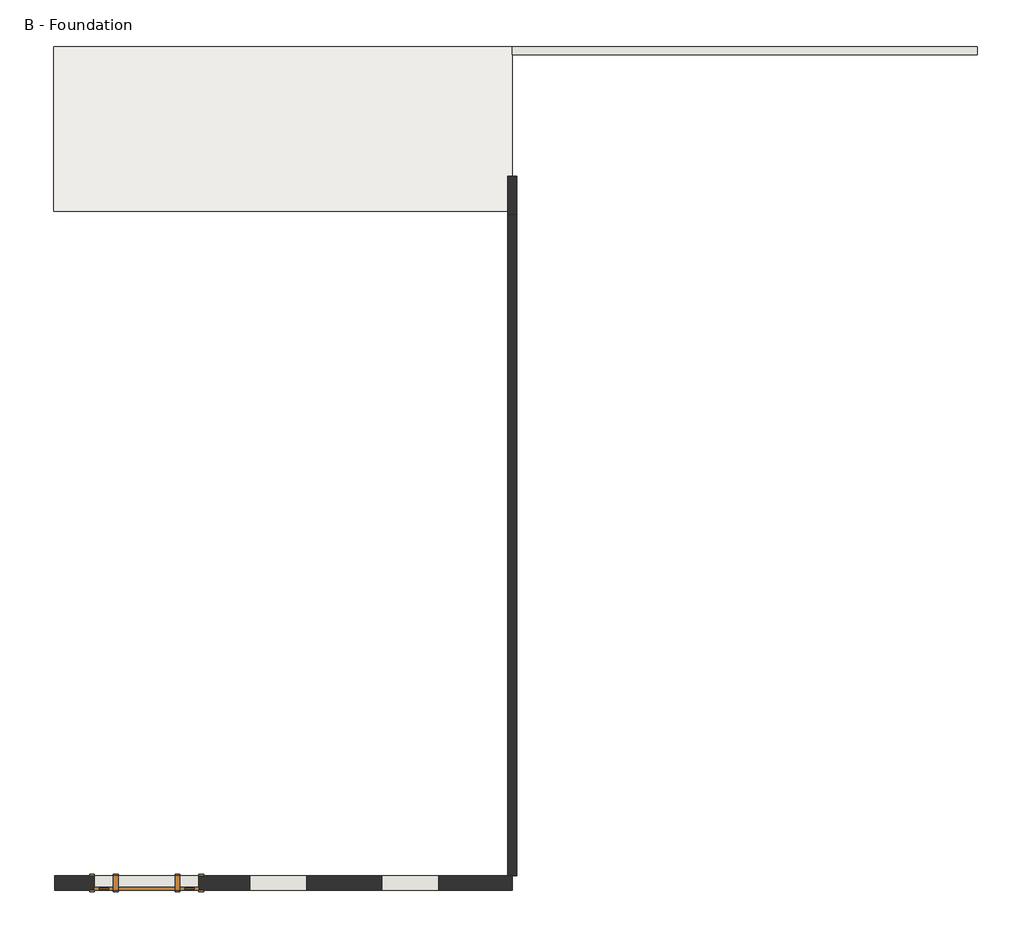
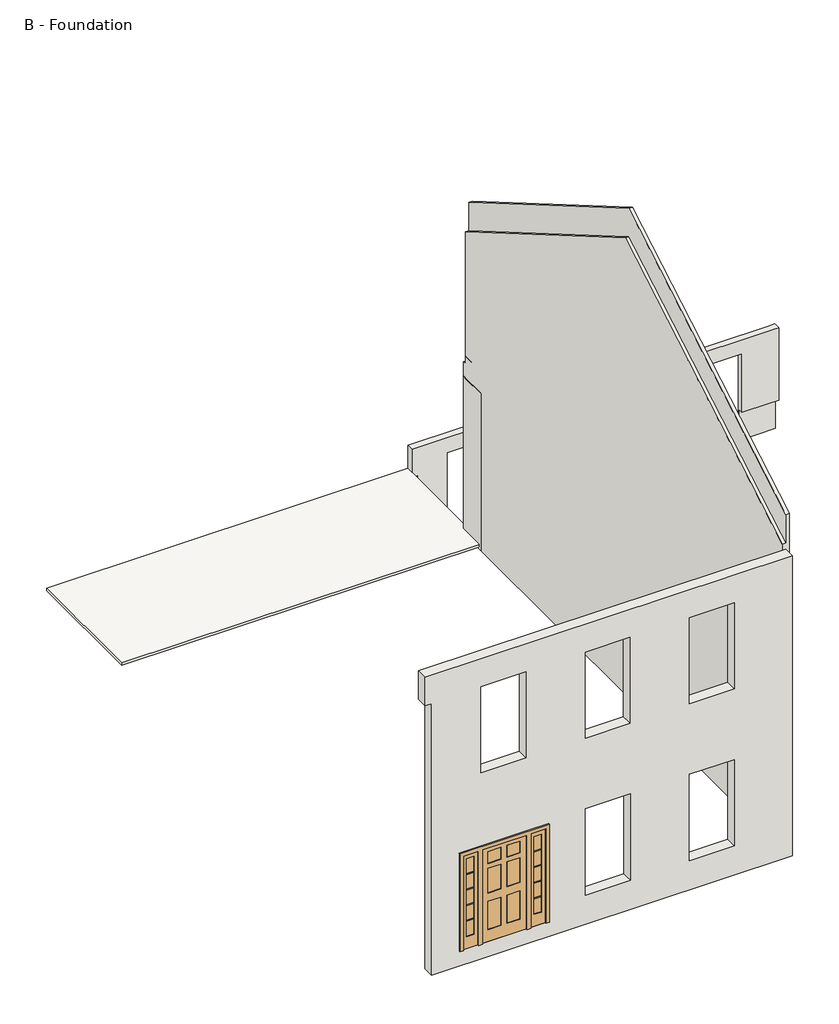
# One storey: 5 walls, 1 door, 1 slab.
"""IFC4 building model written with IfcOpenShell, lengths in millimetres."""

from ifc_helpers import new_model, si_unit, frame, origin, place, context, project, spatial, polyline, outline, extrude, faceted_brep, transform, mapped, element, save
from components import door_09daaf69

model = new_model("IFC4")

# Units and contexts
model_context = context("Model", 3, world=origin())
ifc_project = project(units=[si_unit("LENGTHUNIT", "METRE", prefix="MILLI")], contexts=[model_context])

# Site, building, storey
site = spatial("IfcSite", under=ifc_project)
building = spatial("IfcBuilding", under=site)
storey = spatial("IfcBuildingStorey", under=building, Name="B - Foundation", Elevation=285.75)

# Door
placement = place(None, origin())
door_shape = door_09daaf69(model_context)
element("IfcDoor", 1, ObjectType="Single-Raised Panel with Sidelights : 36\" x 80\"", at=placement, inside=storey, context=model_context, shape_type="MappedRepresentation", body=[
    mapped(door_shape, transform((-2610.9629486, -7238.6414462, 609.6), x_axis=(-1.0, 0.0, 0.0), y_axis=(0.0, -1.0, 0.0), z_axis=(0.0, 0.0, 1.0))),
])

# Slab
element("IfcSlab", 2, ObjectType="Deck", at=placement, inside=storey, context=model_context, shape_type="SweptSolid", body=[
    extrude(outline(polyline([(3256.4370514, 6190.0210538), (3256.4370514, 3545.2460538), (-4100.0379486, 3545.2460538), (-4100.0379486, 6190.0210538), (3256.4370514, 6190.0210538)])), frame((0.0, 0.0, 342.9), z_axis=(0.0, 0.0, 1.0), x_axis=(1.0, 0.0, 0.0)), (0.0, 0.0, 1.0), 57.15),
])

# Walls
element("IfcWall", 3, ObjectType="Exterior - Brick on Wood Stud", at=placement, inside=storey, context=model_context, shape_type="Brep", body=[
    faceted_brep([(3256.4370514, -7122.7539462, 285.75), (3183.4120514, -7122.7539462, 285.75), (-3950.8129486, -7122.7539462, 285.75), (-4084.1629486, -7122.7539462, 285.75), (-4084.1629486, -7122.7539462, 6127.75), (-4217.5129486, -7122.7539462, 6127.75), (-4217.5129486, -7122.7539462, 6262.9520833), (-4217.5129486, -7122.7539462, 6737.35), (3256.4370514, -7122.7539462, 6737.35), (3256.4370514, -7122.7539462, 895.35), (-958.5972335, -7122.7539462, 6140.45), (-958.5972335, -7122.7539462, 4286.25), (-44.1972335, -7122.7539462, 4286.25), (-44.1972335, -7122.7539462, 6140.45), (-3077.226876, -7122.7539462, 6140.45), (-3077.226876, -7122.7539462, 4286.25), (-2162.826876, -7122.7539462, 4286.25), (-2162.826876, -7122.7539462, 6140.45), (1160.032409, -7122.7539462, 6140.45), (1160.032409, -7122.7539462, 4286.25), (2074.432409, -7122.7539462, 4286.25), (2074.432409, -7122.7539462, 6140.45), (-3449.1629486, -7122.7539462, 609.6), (-1772.7629486, -7122.7539462, 609.6), (-1772.7629486, -7122.7539462, 2641.6), (-3449.1629486, -7122.7539462, 2641.6), (-954.0652698, -7122.7539462, 2768.6), (-954.0652698, -7122.7539462, 914.4), (-39.6652698, -7122.7539462, 914.4), (-39.6652698, -7122.7539462, 2768.6), (1160.032409, -7122.7539462, 2768.6), (1160.032409, -7122.7539462, 914.4), (2074.432409, -7122.7539462, 914.4), (2074.432409, -7122.7539462, 2768.6), (-4055.5879486, -7122.7539462, 3660.775), (-3950.8129486, -7122.7539462, 3660.775), (3205.6370514, -7122.7539462, 3660.775), (3205.6370514, -7122.7539462, 3981.45), (-1423.5129486, -7122.7539462, 3981.45), (-1537.8129486, -7122.7539462, 3981.45), (-3950.8129486, -7122.7539462, 3981.45), (-4055.5879486, -7122.7539462, 3981.45), (-4084.1629486, -7354.5289462, 285.75), (3256.4370514, -7354.5289462, 285.75), (3256.4370514, -7354.5289462, 895.35), (3256.4370514, -7354.5289462, 6737.35), (-4217.5129486, -7354.5289462, 6737.35), (-4217.5129486, -7354.5289462, 6127.75), (-4084.1629486, -7354.5289462, 6127.75), (-958.5972335, -7354.5289462, 4286.25), (-958.5972335, -7354.5289462, 6140.45), (-44.1972335, -7354.5289462, 6140.45), (-44.1972335, -7354.5289462, 4286.25), (-3077.226876, -7354.5289462, 4286.25), (-3077.226876, -7354.5289462, 6140.45), (-2162.826876, -7354.5289462, 6140.45), (-2162.826876, -7354.5289462, 4286.25), (1160.032409, -7354.5289462, 4286.25), (1160.032409, -7354.5289462, 6140.45), (2074.432409, -7354.5289462, 6140.45), (2074.432409, -7354.5289462, 4286.25), (-1772.7629486, -7354.5289462, 609.6), (-3449.1629486, -7354.5289462, 609.6), (-3449.1629486, -7354.5289462, 2641.6), (-1772.7629486, -7354.5289462, 2641.6), (-954.0652698, -7354.5289462, 914.4), (-954.0652698, -7354.5289462, 2768.6), (-39.6652698, -7354.5289462, 2768.6), (-39.6652698, -7354.5289462, 914.4), (1160.032409, -7354.5289462, 914.4), (1160.032409, -7354.5289462, 2768.6), (2074.432409, -7354.5289462, 2768.6), (2074.432409, -7354.5289462, 914.4), (-4055.5879486, -7135.4539462, 3660.775), (3205.6370514, -7135.4539462, 3660.775), (3205.6370514, -7135.4539462, 3981.45), (-4055.5879486, -7135.4539462, 3981.45)], [[[0, 1, 2, 3, 4, 5, 6, 7, 8, 9], [10, 11, 12, 13], [14, 15, 16, 17], [18, 19, 20, 21], [22, 23, 24, 25], [26, 27, 28, 29], [30, 31, 32, 33], [34, 35, 36, 37, 38, 39, 40, 41]], [[42, 43, 44, 45, 46, 47, 48], [49, 50, 51, 52], [53, 54, 55, 56], [57, 58, 59, 60], [61, 62, 63, 64], [65, 66, 67, 68], [69, 70, 71, 72]], [[3, 2, 1, 0, 43, 42]], [[8, 7, 46, 45]], [[8, 45, 44, 43, 0, 9]], [[3, 42, 48, 4]], [[7, 6, 5, 47, 46]], [[11, 10, 50, 49]], [[12, 11, 49, 52]], [[13, 12, 52, 51]], [[10, 13, 51, 50]], [[15, 14, 54, 53]], [[16, 15, 53, 56]], [[17, 16, 56, 55]], [[14, 17, 55, 54]], [[19, 18, 58, 57]], [[20, 19, 57, 60]], [[21, 20, 60, 59]], [[18, 21, 59, 58]], [[62, 61, 23, 22]], [[63, 62, 22, 25]], [[64, 63, 25, 24]], [[61, 64, 24, 23]], [[27, 26, 66, 65]], [[28, 27, 65, 68]], [[29, 28, 68, 67]], [[26, 29, 67, 66]], [[31, 30, 70, 69]], [[32, 31, 69, 72]], [[33, 32, 72, 71]], [[30, 33, 71, 70]], [[73, 74, 36, 35, 34]], [[75, 76, 41, 40, 39, 38, 37]], [[74, 75, 37, 36]], [[74, 73, 76, 75]], [[76, 73, 34, 41]], [[5, 4, 48, 47]]]),
])
element("IfcWall", 4, ObjectType="Exterior - Wood Siding on Wood Stud", at=placement, inside=storey, context=model_context, shape_type="Brep", body=[
    faceted_brep([(3256.4370514, 6190.0210538, 895.35), (10590.6870514, 6190.0210538, 895.35), (10724.0370514, 6190.0210538, 895.35), (10724.0370514, 6190.0210538, -730.25), (10724.0370514, 6190.0210538, -1339.85), (9974.7370514, 6190.0210538, -1339.85), (9974.7370514, 6190.0210538, 590.55), (7485.5370514, 6190.0210538, 590.55), (7485.5370514, 6190.0210538, -1339.85), (6456.8370514, 6190.0210538, -1339.85), (6456.8370514, 6190.0210538, 565.15), (3967.6370514, 6190.0210538, 565.15), (3967.6370514, 6190.0210538, -1339.85), (3383.4370514, 6190.0210538, -1339.85), (3383.4370514, 6190.0210538, 285.75), (3256.4370514, 6190.0210538, 285.75), (10724.0370514, 6056.6710538, 895.35), (10590.6870514, 6056.6710538, 895.35), (10470.0370514, 6056.6710538, 895.35), (3256.4370514, 6056.6710538, 895.35), (3256.4370514, 6056.6710538, 285.75), (3383.4370514, 6056.6710538, 285.75), (3383.4370514, 6056.6710538, -666.75), (3967.6370514, 6056.6710538, -666.75), (3967.6370514, 6056.6710538, 565.15), (6456.8370514, 6056.6710538, 565.15), (6456.8370514, 6056.6710538, -666.75), (7485.5370514, 6056.6710538, -666.75), (7485.5370514, 6056.6710538, 590.55), (9974.7370514, 6056.6710538, 590.55), (9974.7370514, 6056.6710538, -666.75), (10470.0370514, 6056.6710538, -666.75), (10724.0370514, 6056.6710538, -666.75), (10724.0370514, 6056.6710538, -336.55), (7485.5370514, 6170.9710538, -666.75), (6456.8370514, 6170.9710538, -666.75), (3383.4370514, 6170.9710538, -666.75), (3967.6370514, 6170.9710538, -666.75), (9974.7370514, 6170.9710538, -666.75), (10724.0370514, 6170.9710538, -666.75), (9974.7370514, 6170.9710538, -1339.85), (10724.0370514, 6170.9710538, -1339.85), (10724.0370514, 6170.9710538, -730.25), (7485.5370514, 6170.9710538, -1339.85), (6456.8370514, 6170.9710538, -1339.85), (3383.4370514, 6170.9710538, -1339.85), (3967.6370514, 6170.9710538, -1339.85)], [[[0, 1, 2, 3, 4, 5, 6, 7, 8, 9, 10, 11, 12, 13, 14, 15]], [[16, 17, 18, 19, 20, 21, 22, 23, 24, 25, 26, 27, 28, 29, 30, 31, 32, 33]], [[2, 1, 0, 19, 18, 17, 16]], [[34, 27, 26, 35]], [[23, 22, 36, 37]], [[32, 31, 30, 38, 39]], [[40, 41, 42, 39, 38]], [[43, 34, 35, 44]], [[45, 46, 37, 36]], [[5, 4, 41, 40]], [[8, 43, 44, 9]], [[13, 12, 46, 45]], [[29, 6, 5, 40, 38, 30]], [[6, 29, 28, 7]], [[7, 28, 27, 34, 43, 8]], [[25, 10, 9, 44, 35, 26]], [[10, 25, 24, 11]], [[11, 24, 23, 37, 46, 12]], [[15, 14, 21, 20]], [[36, 22, 21, 14, 13, 45]], [[19, 0, 15, 20]], [[2, 16, 33, 32, 39, 42, 41, 4, 3]]]),
])
element("IfcWall", 5, ObjectType="Exterior - Wood Siding on Wood Stud 2", at=placement, inside=storey, context=model_context, shape_type="Brep", body=[
    faceted_brep([(3329.4620514, 3497.6210538, 285.75), (3329.4620514, 4107.2210538, 285.75), (3329.4620514, 4107.2210538, 3683.0), (3329.4620514, 3497.6210538, 3683.0), (3183.4120514, 4107.2210538, 3683.0), (3183.4120514, 4107.2210538, 285.75), (3183.4120514, 3497.6210538, 285.75), (3183.4120514, 3497.6210538, 3660.775), (3183.4120514, 4053.2460538, 3660.775), (3183.4120514, 4053.2460538, 3683.0), (3202.4620514, 4107.2210538, 285.75), (3202.4620514, 4107.2210538, 3683.0), (3202.4620514, 3497.6210538, 285.75), (3205.6370514, 3497.6210538, 3683.0), (3205.6370514, 3497.6210538, 3660.775), (3202.4620514, 4053.2460538, 3683.0), (3205.6370514, 4053.2460538, 3683.0), (3205.6370514, 4053.2460538, 3660.775)], [[[0, 1, 2, 3]], [[4, 5, 6, 7, 8, 9]], [[1, 10, 5, 4, 11, 2]], [[10, 1, 0, 12]], [[5, 10, 12, 6]], [[0, 3, 13, 14, 7, 6, 12]], [[3, 2, 11, 15, 16, 13]], [[11, 4, 9, 15]], [[14, 17, 8, 7]], [[8, 17, 16, 15, 9]], [[17, 14, 13, 16]]]),
])
element("IfcWall", 6, ObjectType="Exterior - Wood Siding on Wood Stud 2", at=placement, inside=storey, context=model_context, shape_type="Brep", body=[
    faceted_brep([(3329.4620514, -7049.7289462, 285.75), (3329.4620514, 151.1710538, 285.75), (3329.4620514, 265.4710538, 285.75), (3329.4620514, 3497.6210538, 285.75), (3329.4620514, 3497.6210538, 609.6), (3329.4620514, 3497.6210538, 3683.0), (3329.4620514, 4107.2210538, 3683.0), (3329.4620514, 4107.2210538, 3981.45), (3329.4620514, 4040.5460538, 3981.45), (3329.4620514, 4040.5460538, 4591.05), (3329.4620514, 4040.5460538, 7424.7375), (3329.4620514, -1590.3164462, 10709.4072917), (3329.4620514, -7122.7539462, 7482.1520833), (3329.4620514, -7122.7539462, 895.35), (3329.4620514, -7049.7289462, 895.35), (3183.4120514, -7122.7539462, 285.75), (3183.4120514, -7122.7539462, 895.35), (3183.4120514, -7122.7539462, 6872.5520833), (3183.4120514, -1590.3164462, 10099.8072917), (3183.4120514, 4040.5460538, 6815.1375), (3183.4120514, 4040.5460538, 3981.45), (3183.4120514, 4107.2210538, 3981.45), (3183.4120514, 4107.2210538, 3683.0), (3183.4120514, 4053.2460538, 3683.0), (3183.4120514, 3497.6210538, 3683.0), (3183.4120514, 3497.6210538, 3660.775), (3183.4120514, 3497.6210538, 609.6), (3183.4120514, 3497.6210538, 285.75), (3256.4370514, -7122.7539462, 6872.5520833), (3256.4370514, -1590.3164462, 10099.8072917), (3256.4370514, -1590.3164462, 10709.4072917), (3256.4370514, -7122.7539462, 7482.1520833), (3256.4370514, 4040.5460538, 7424.7375), (3256.4370514, 4040.5460538, 7359.65), (3256.4370514, 4040.5460538, 6815.1375), (3256.4370514, -7122.7539462, 7346.95), (3256.4370514, -7122.7539462, 895.35), (3256.4370514, -7049.7289462, 895.35), (3256.4370514, -7049.7289462, 285.75), (3256.4370514, -7122.7539462, 285.75), (3202.4620514, -7122.7539462, 285.75), (3202.4620514, 4107.2210538, 3683.0), (3202.4620514, 3497.6210538, 285.75), (3202.4620514, 3497.6210538, 3683.0), (3205.6370514, 3497.6210538, 3683.0), (3202.4620514, 4053.2460538, 3683.0)], [[[0, 1, 2, 3, 4, 5, 6, 7, 8, 9, 10, 11, 12, 13, 14]], [[15, 16, 17, 18, 19, 20, 21, 22, 23, 24, 25, 26, 27]], [[18, 17, 28, 29]], [[12, 11, 30, 31]], [[11, 10, 32, 30]], [[31, 30, 32, 33, 34, 29, 28, 35]], [[13, 36, 37, 14]], [[0, 14, 37, 38]], [[37, 36, 39, 38]], [[36, 16, 15, 40, 39]], [[13, 12, 31, 35, 28, 17, 16, 36]], [[7, 6, 41, 22, 21]], [[34, 19, 18, 29]], [[8, 20, 19, 34, 33, 32, 10, 9]], [[20, 8, 7, 21]], [[3, 42, 27, 26, 25, 24, 43, 44, 5, 4]], [[3, 2, 1, 0, 38, 39, 40, 42]], [[40, 15, 27, 42]], [[6, 5, 44, 43, 45, 41]], [[43, 24, 23, 22, 41, 45]]]),
])
element("IfcWall", 7, ObjectType="Exterior - Wood Siding on Wood Stud 2", at=placement, inside=storey, context=model_context, shape_type="Brep", body=[
    faceted_brep([(3329.4620514, 3497.6210538, 285.75), (3329.4620514, 4107.2210538, 285.75), (3329.4620514, 4107.2210538, 3981.45), (3329.4620514, 4040.5460538, 3981.45), (3329.4620514, 4040.5460538, 4146.55), (3329.4620514, 3564.2960538, 4146.55), (3329.4620514, 3564.2960538, 609.6), (3329.4620514, 3497.6210538, 609.6), (3183.4120514, 3497.6210538, 285.75), (3183.4120514, 3497.6210538, 609.6), (3183.4120514, 3564.2960538, 609.6), (3183.4120514, 3564.2960538, 4146.55), (3183.4120514, 4040.5460538, 4146.55), (3183.4120514, 4040.5460538, 3981.45), (3183.4120514, 4107.2210538, 3981.45), (3183.4120514, 4107.2210538, 285.75), (3202.4620514, 3497.6210538, 285.75), (3202.4620514, 4107.2210538, 285.75)], [[[0, 1, 2, 3, 4, 5, 6, 7]], [[8, 9, 10, 11, 12, 13, 14, 15]], [[5, 4, 12, 11]], [[1, 0, 16, 17]], [[16, 8, 15, 17]], [[0, 7, 9, 8, 16]], [[6, 10, 9, 7]], [[1, 17, 15, 14, 2]], [[13, 3, 2, 14]], [[4, 3, 13, 12]], [[5, 11, 10, 6]]]),
])

save(model, "model.ifc")
